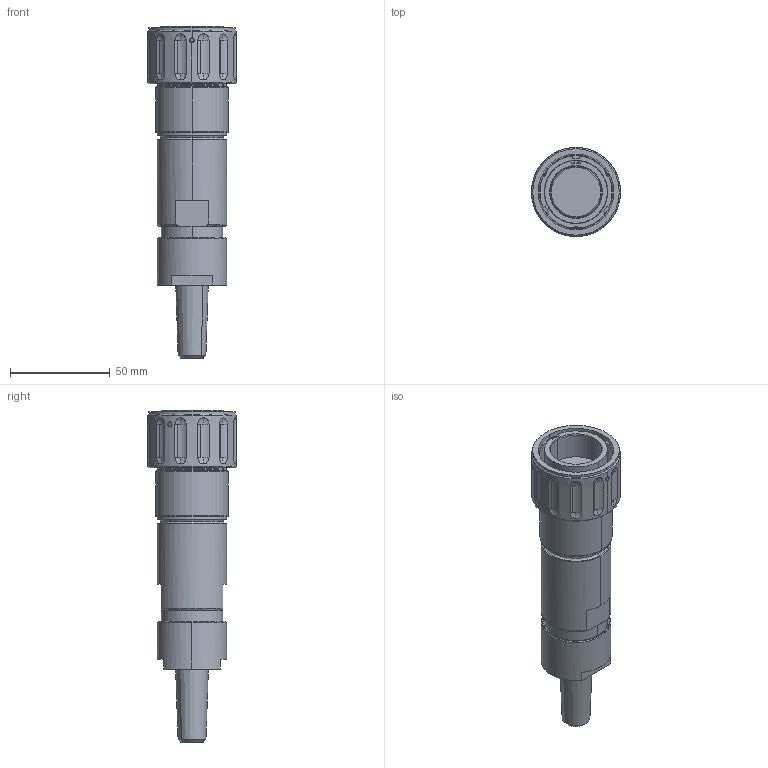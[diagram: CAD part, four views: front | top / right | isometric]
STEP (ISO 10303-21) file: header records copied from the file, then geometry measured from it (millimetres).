
FILE_DESCRIPTION (( 'STEP AP214' ), '1' );
FILE_NAME ('QLINK-PGBX-21XX-SXXX-RA.STEP', '2025-12-09T15:38:33', ( '' ), ( '' ), 'SwSTEP 2.0', 'SolidWorks 2024', '' );
FILE_SCHEMA (( 'AUTOMOTIVE_DESIGN' ));
Length unit declared in the file: millimetre
Products named in the file (1): QLINK-PGBX-21XX-SXXX-RA
Bounding box: 44.6 x 44.6 x 166.39 mm (x, y, z)
Volume: 129636.5 mm3; surface area: 29470.5 mm2
Topology: 5 solids, 5 shells, 272 faces, 643 edges, 408 vertices
Faces by surface type: cylinder 97, plane 65, sphere 48, cone 45, torus 12, bspline 5
Entity records: 10546 total; most frequent: CARTESIAN_POINT 4173, DIRECTION 1378, ORIENTED_EDGE 1286, EDGE_CURVE 643, AXIS2_PLACEMENT_3D 574, VERTEX_POINT 408, EDGE_LOOP 309, CIRCLE 306
